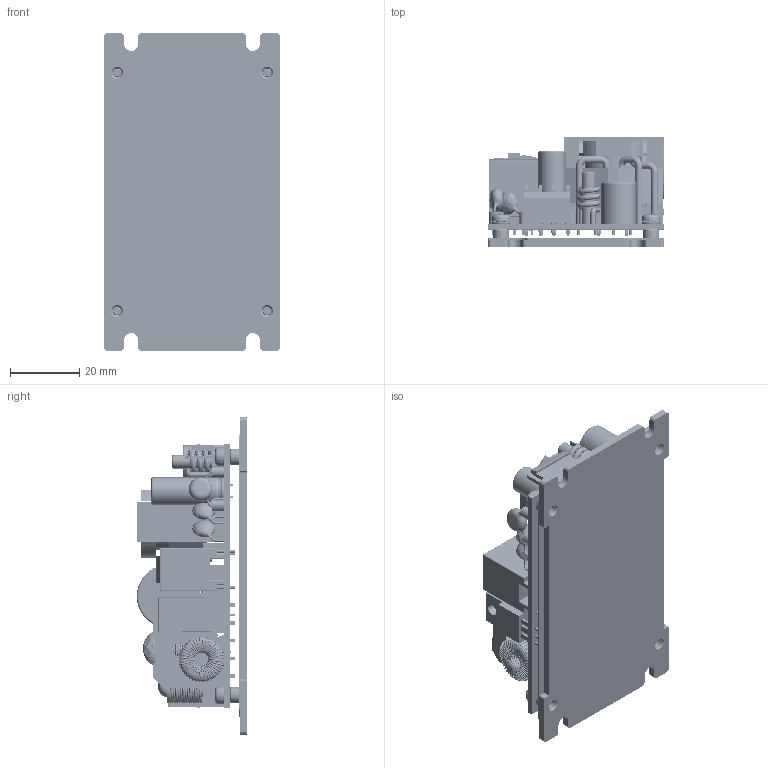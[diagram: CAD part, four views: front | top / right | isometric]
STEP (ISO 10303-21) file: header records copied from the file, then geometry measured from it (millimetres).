
FILE_DESCRIPTION (( 'STEP AP203' ), '1' );
FILE_NAME ('CFM130S(M)XXX-B ¦¨«~¹Ï-1130205.STEP', '2024-07-23T03:45:08', ( 'cincon' ), ( '' ), 'SwSTEP 2.0', 'SolidWorks 2020', '' );
FILE_SCHEMA (( 'CONFIG_CONTROL_DESIGN' ));
Products named in the file (1): CFM130S(M)XXX-B 成品圖-1130205
Bounding box: 50.8 x 31.8 x 91.4 mm (x, y, z)
Volume: 49447.9 mm3; surface area: 43393.9 mm2
Topology: 6 solids, 12 shells, 3558 faces, 11063 edges, 7042 vertices
Faces by surface type: cylinder 1340, plane 987, bspline 685, torus 490, cone 49, sphere 7
Entity records: 237479 total; most frequent: CARTESIAN_POINT 148161, ORIENTED_EDGE 22072, DIRECTION 15969, EDGE_CURVE 11036, VERTEX_POINT 7042, AXIS2_PLACEMENT_3D 6145, EDGE_LOOP 3810, LINE 3679
